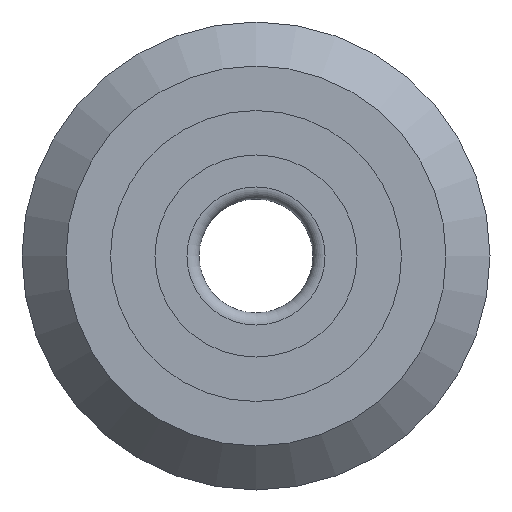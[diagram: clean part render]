
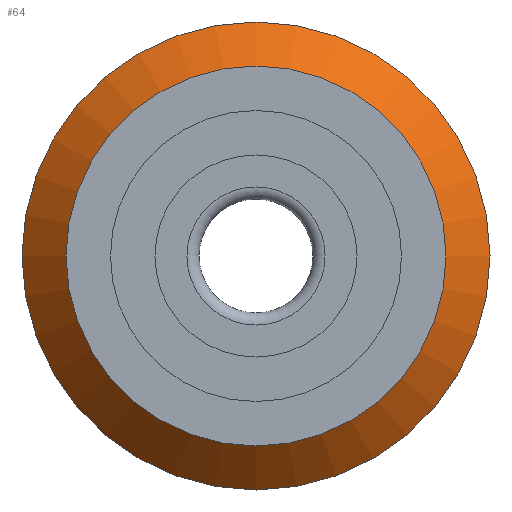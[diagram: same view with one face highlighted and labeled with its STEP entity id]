
A CAD part, left-side view. The second image highlights one B-rep face of the part: STEP entity #64.
In plain terms, the highlighted conical face has half-angle 45 degrees and reference radius 9.792 mm.
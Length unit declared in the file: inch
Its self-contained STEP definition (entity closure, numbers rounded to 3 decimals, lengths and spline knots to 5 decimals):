
#64 = ADVANCED_FACE( '', ( #151, #152 ), #153, .T. );
#151 = FACE_BOUND( '', #278, .T. );
#152 = FACE_OUTER_BOUND( '', #279, .T. );
#153 = CONICAL_SURFACE( '', #280, 0.3855, 0.785 );
#278 = EDGE_LOOP( '', ( #409 ) );
#279 = EDGE_LOOP( '', ( #410 ) );
#280 = AXIS2_PLACEMENT_3D( '', #411, #412, #413 );
#409 = ORIENTED_EDGE( '', *, *, #572, .T. );
#410 = ORIENTED_EDGE( '', *, *, #573, .F. );
#411 = CARTESIAN_POINT( '', ( -0.0825, 0., 0. ) );
#412 = DIRECTION( '', ( 1., 0., 0. ) );
#413 = DIRECTION( '', ( 0., 1., 0. ) );
#572 = EDGE_CURVE( '', #640, #640, #641, .T. );
#573 = EDGE_CURVE( '', #642, #642, #643, .T. );
#640 = VERTEX_POINT( '', #730 );
#641 = CIRCLE( '', #731, 0.313 );
#642 = VERTEX_POINT( '', #732 );
#643 = CIRCLE( '', #733, 0.3855 );
#730 = CARTESIAN_POINT( '', ( -0.155, 0.313, 0. ) );
#731 = AXIS2_PLACEMENT_3D( '', #822, #823, #824 );
#732 = CARTESIAN_POINT( '', ( -0.0825, 0.3855, 0. ) );
#733 = AXIS2_PLACEMENT_3D( '', #825, #826, #827 );
#822 = CARTESIAN_POINT( '', ( -0.155, 0., 0. ) );
#823 = DIRECTION( '', ( 1., 0., 0. ) );
#824 = DIRECTION( '', ( 0., 1., 0. ) );
#825 = CARTESIAN_POINT( '', ( -0.0825, 0., 0. ) );
#826 = DIRECTION( '', ( 1., 0., 0. ) );
#827 = DIRECTION( '', ( 0., 1., 0. ) );
